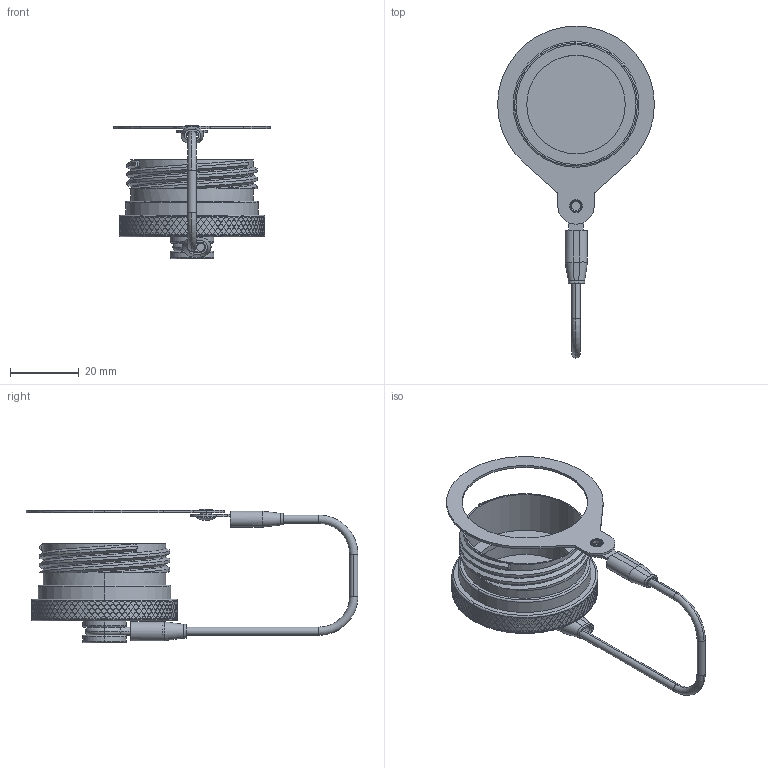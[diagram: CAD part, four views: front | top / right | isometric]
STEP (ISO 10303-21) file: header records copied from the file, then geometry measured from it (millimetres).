
FILE_DESCRIPTION (( 'STEP AP214' ), '1' );
FILE_NAME ('Q38DC-PRX-23-R0.STEP', '2026-04-22T18:44:46', ( '' ), ( '' ), 'SwSTEP 2.0', 'SolidWorks 2024', '' );
FILE_SCHEMA (( 'AUTOMOTIVE_DESIGN' ));
Length unit declared in the file: inch
Products named in the file (11): SW-349_SW-349; SW-347; LN-06-07-13_Q38DC-PRX-23 (Assembled); Q38DC-PRX-23-R0; Q38-XX28-X_Q38-2328; Lanyard Assembly Q38_Q38DC-PRX-23 (Assembled); Q38-XX29-P_23P; HEAT SHRINK_HS-250X625_SW-348; SW-348; HEAT SHRINK_HS-125-625S; SW-XRXX_SW-SR23
Assembly tree (10 placements, depth 3):
  Q38DC-PRX-23-R0
    Q38-XX28-X_Q38-2328
    Lanyard Assembly Q38_Q38DC-PRX-23 (Assembled)
      LN-06-07-13_Q38DC-PRX-23 (Assembled)
      SW-348
      HEAT SHRINK_HS-250X625_SW-348
      SW-347
      HEAT SHRINK_HS-125-625S
      SW-349_SW-349
      SW-XRXX_SW-SR23
    Q38-XX29-P_23P
Bounding box: 45.5 x 96.29 x 38.81 mm (x, y, z)
Volume: 12182.4 mm3; surface area: 14311.7 mm2
Topology: 9 solids, 9 shells, 2130 faces, 5111 edges, 3380 vertices
Faces by surface type: plane 1607, cylinder 472, torus 32, bspline 17, sphere 2
Entity records: 63520 total; most frequent: CARTESIAN_POINT 21280, ORIENTED_EDGE 10222, DIRECTION 7089, EDGE_CURVE 5111, VERTEX_POINT 3380, AXIS2_PLACEMENT_3D 2660, EDGE_LOOP 2525, ADVANCED_FACE 2130
